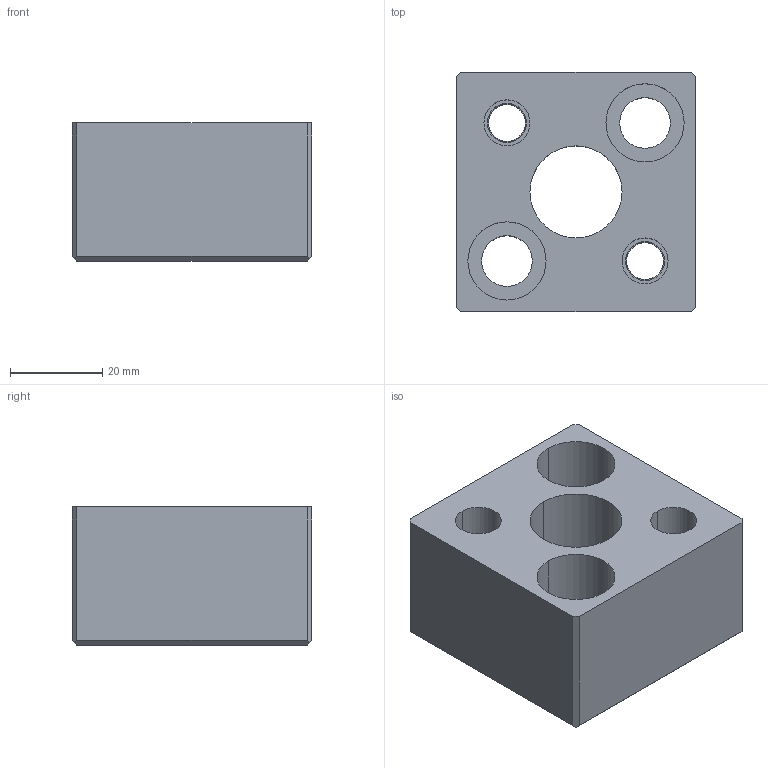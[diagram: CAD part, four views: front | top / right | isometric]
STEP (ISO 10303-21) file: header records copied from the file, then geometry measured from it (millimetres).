
FILE_DESCRIPTION(/* description */ (''),/* implementation_level */ '2;1');
FILE_NAME(/* name */ '3d_sr-an20_05469_r00.stp',/* time_stamp */ '2011-01-10T14:10:00+09:00',/* author */ ('MISUMI'),/* organization */ (''),/* preprocessor_version */ 'ST-DEVELOPER v11',/* originating_system */ 'UGS - NX 5.0',/* authorisation */ '');
FILE_SCHEMA (('CONFIG_CONTROL_DESIGN'));
Length unit declared in the file: millimetre
Products named in the file (1): 3d_sr-an20_05469_r00
Bounding box: 52 x 52 x 30 mm (x, y, z)
Volume: 58130.7 mm3; surface area: 16403.5 mm2
Topology: 1 solids, 1 shells, 47 faces, 112 edges, 74 vertices
Faces by surface type: cylinder 24, plane 21, cone 2
Entity records: 1486 total; most frequent: DIRECTION 258, CARTESIAN_POINT 234, ORIENTED_EDGE 224, EDGE_CURVE 112, AXIS2_PLACEMENT_3D 98, VERTEX_POINT 74, EDGE_LOOP 64, LINE 62
